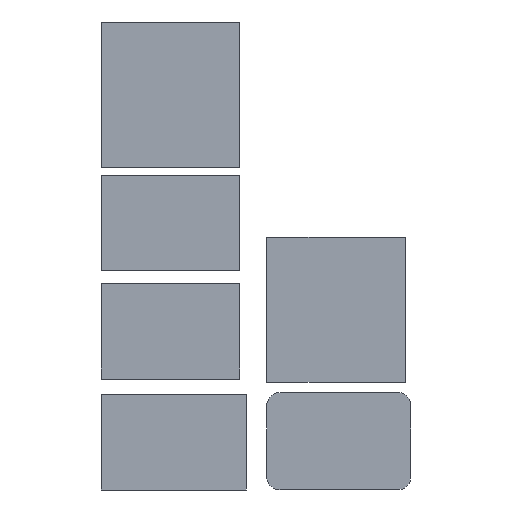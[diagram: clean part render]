
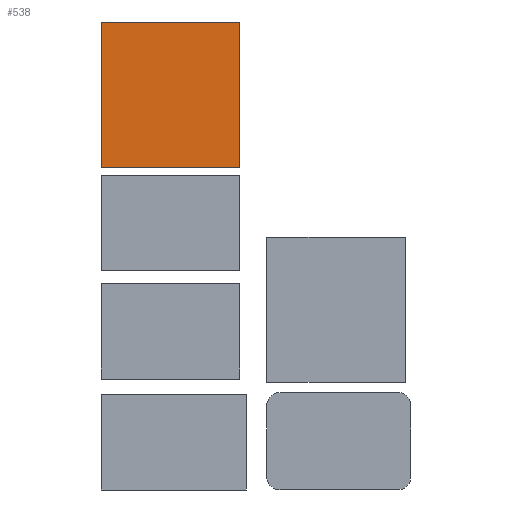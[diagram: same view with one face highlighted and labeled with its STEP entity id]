
A CAD part, front view. The second image highlights one B-rep face of the part: STEP entity #538.
In plain terms, the highlighted planar face has unit normal (0, -1, 0) as drawn and (0, 0, -1) by its records, which use the part's own axes.
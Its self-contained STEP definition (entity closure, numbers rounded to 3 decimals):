
#48=FACE_OUTER_BOUND('',#82,.T.);
#82=EDGE_LOOP('',(#379,#380,#381,#382));
#111=LINE('',#2559,#175);
#115=LINE('',#2567,#179);
#118=LINE('',#2573,#182);
#121=LINE('',#2578,#185);
#175=VECTOR('',#2216,10.);
#179=VECTOR('',#2222,10.);
#182=VECTOR('',#2227,10.);
#185=VECTOR('',#2232,10.);
#239=VERTEX_POINT('',#2557);
#240=VERTEX_POINT('',#2558);
#243=VERTEX_POINT('',#2566);
#245=VERTEX_POINT('',#2572);
#287=EDGE_CURVE('',#239,#240,#111,.T.);
#291=EDGE_CURVE('',#240,#243,#115,.T.);
#294=EDGE_CURVE('',#243,#245,#118,.T.);
#297=EDGE_CURVE('',#245,#239,#121,.T.);
#379=ORIENTED_EDGE('',*,*,#297,.T.);
#380=ORIENTED_EDGE('',*,*,#287,.T.);
#381=ORIENTED_EDGE('',*,*,#291,.T.);
#382=ORIENTED_EDGE('',*,*,#294,.T.);
#508=PLANE('',#1888);
#538=ADVANCED_FACE('',(#48),#508,.F.);
#1888=AXIS2_PLACEMENT_3D('',#2581,#2236,#2237);
#2216=DIRECTION('',(0.,1.,0.));
#2222=DIRECTION('',(1.,0.,0.));
#2227=DIRECTION('',(0.,-1.,0.));
#2232=DIRECTION('',(-1.,0.,0.));
#2236=DIRECTION('center_axis',(0.,0.,1.));
#2237=DIRECTION('ref_axis',(1.,0.,0.));
#2557=CARTESIAN_POINT('',(-219.,-219.,-144.));
#2558=CARTESIAN_POINT('',(-219.,219.,-144.));
#2559=CARTESIAN_POINT('',(-219.,-219.,-144.));
#2566=CARTESIAN_POINT('',(200.,219.,-144.));
#2567=CARTESIAN_POINT('',(-219.,219.,-144.));
#2572=CARTESIAN_POINT('',(200.,-219.,-144.));
#2573=CARTESIAN_POINT('',(200.,219.,-144.));
#2578=CARTESIAN_POINT('',(200.,-219.,-144.));
#2581=CARTESIAN_POINT('Origin',(-9.5,0.,-144.));
